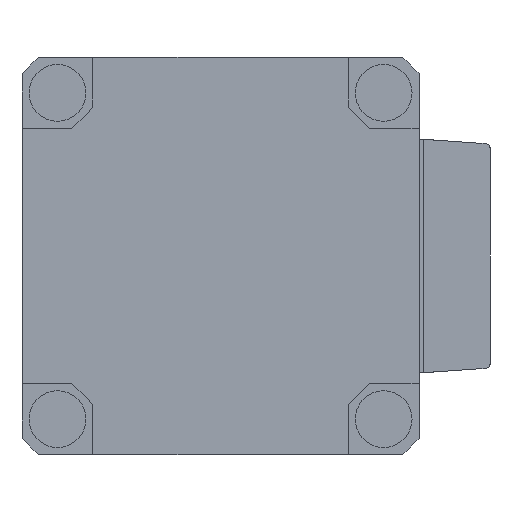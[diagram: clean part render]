
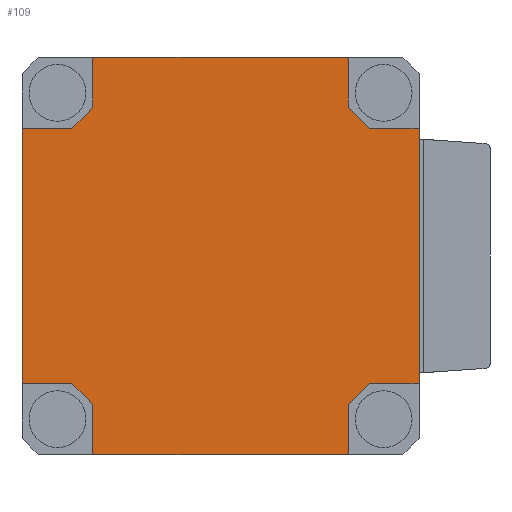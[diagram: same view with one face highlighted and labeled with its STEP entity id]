
A CAD part, left-side view. The second image highlights one B-rep face of the part: STEP entity #109.
In plain terms, the highlighted planar face has unit normal (-1, 0, 0).
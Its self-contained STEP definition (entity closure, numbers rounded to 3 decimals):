
#109 = ADVANCED_FACE( '', ( #302 ), #303, .F. );
#302 = FACE_OUTER_BOUND( '', #610, .T. );
#303 = PLANE( '', #611 );
#610 = EDGE_LOOP( '', ( #1045, #1046, #1047, #1048, #1049, #1050, #1051, #1052, #1053, #1054, #1055, #1056, #1057, #1058, #1059, #1060 ) );
#611 = AXIS2_PLACEMENT_3D( '', #1061, #1062, #1063 );
#1045 = ORIENTED_EDGE( '', *, *, #1925, .T. );
#1046 = ORIENTED_EDGE( '', *, *, #1923, .T. );
#1047 = ORIENTED_EDGE( '', *, *, #1902, .T. );
#1048 = ORIENTED_EDGE( '', *, *, #1930, .F. );
#1049 = ORIENTED_EDGE( '', *, *, #1931, .T. );
#1050 = ORIENTED_EDGE( '', *, *, #1927, .T. );
#1051 = ORIENTED_EDGE( '', *, *, #1932, .T. );
#1052 = ORIENTED_EDGE( '', *, *, #1933, .F. );
#1053 = ORIENTED_EDGE( '', *, *, #1934, .T. );
#1054 = ORIENTED_EDGE( '', *, *, #1935, .T. );
#1055 = ORIENTED_EDGE( '', *, *, #1936, .T. );
#1056 = ORIENTED_EDGE( '', *, *, #1937, .F. );
#1057 = ORIENTED_EDGE( '', *, *, #1938, .T. );
#1058 = ORIENTED_EDGE( '', *, *, #1939, .T. );
#1059 = ORIENTED_EDGE( '', *, *, #1940, .T. );
#1060 = ORIENTED_EDGE( '', *, *, #1941, .F. );
#1061 = CARTESIAN_POINT( '', ( -51.5, 0., 0. ) );
#1062 = DIRECTION( '', ( 1., 0., 0. ) );
#1063 = DIRECTION( '', ( 0., 0., -1. ) );
#1902 = EDGE_CURVE( '', #2264, #2265, #2266, .T. );
#1923 = EDGE_CURVE( '', #2305, #2264, #2306, .T. );
#1925 = EDGE_CURVE( '', #2308, #2305, #2309, .T. );
#1927 = EDGE_CURVE( '', #2311, #2312, #2313, .T. );
#1930 = EDGE_CURVE( '', #2316, #2265, #2317, .T. );
#1931 = EDGE_CURVE( '', #2316, #2311, #2318, .T. );
#1932 = EDGE_CURVE( '', #2312, #2319, #2320, .T. );
#1933 = EDGE_CURVE( '', #2321, #2319, #2322, .T. );
#1934 = EDGE_CURVE( '', #2321, #2323, #2324, .T. );
#1935 = EDGE_CURVE( '', #2323, #2325, #2326, .T. );
#1936 = EDGE_CURVE( '', #2325, #2327, #2328, .T. );
#1937 = EDGE_CURVE( '', #2329, #2327, #2330, .T. );
#1938 = EDGE_CURVE( '', #2329, #2331, #2332, .T. );
#1939 = EDGE_CURVE( '', #2331, #2333, #2334, .T. );
#1940 = EDGE_CURVE( '', #2333, #2335, #2336, .T. );
#1941 = EDGE_CURVE( '', #2308, #2335, #2337, .T. );
#2264 = VERTEX_POINT( '', #2812 );
#2265 = VERTEX_POINT( '', #2813 );
#2266 = LINE( '', #2814, #2815 );
#2305 = VERTEX_POINT( '', #2868 );
#2306 = CIRCLE( '', #2869, 19. );
#2308 = VERTEX_POINT( '', #2872 );
#2309 = LINE( '', #2873, #2874 );
#2311 = VERTEX_POINT( '', #2877 );
#2312 = VERTEX_POINT( '', #2878 );
#2313 = CIRCLE( '', #2879, 19. );
#2316 = VERTEX_POINT( '', #2884 );
#2317 = LINE( '', #2885, #2886 );
#2318 = LINE( '', #2887, #2888 );
#2319 = VERTEX_POINT( '', #2889 );
#2320 = LINE( '', #2890, #2891 );
#2321 = VERTEX_POINT( '', #2892 );
#2322 = LINE( '', #2893, #2894 );
#2323 = VERTEX_POINT( '', #2895 );
#2324 = LINE( '', #2896, #2897 );
#2325 = VERTEX_POINT( '', #2898 );
#2326 = CIRCLE( '', #2899, 19. );
#2327 = VERTEX_POINT( '', #2900 );
#2328 = LINE( '', #2901, #2902 );
#2329 = VERTEX_POINT( '', #2903 );
#2330 = LINE( '', #2904, #2905 );
#2331 = VERTEX_POINT( '', #2906 );
#2332 = LINE( '', #2907, #2908 );
#2333 = VERTEX_POINT( '', #2909 );
#2334 = CIRCLE( '', #2910, 19. );
#2335 = VERTEX_POINT( '', #2911 );
#2336 = LINE( '', #2912, #2913 );
#2337 = LINE( '', #2914, #2915 );
#2812 = CARTESIAN_POINT( '', ( -51.5, 9., -10.5 ) );
#2813 = CARTESIAN_POINT( '', ( -51.5, 9., -14. ) );
#2814 = CARTESIAN_POINT( '', ( -51.5, 9., -10.5 ) );
#2815 = VECTOR( '', #3545, 1000. );
#2868 = CARTESIAN_POINT( '', ( -51.5, 10.5, -9. ) );
#2869 = AXIS2_PLACEMENT_3D( '', #3578, #3579, #3580 );
#2872 = CARTESIAN_POINT( '', ( -51.5, 14., -9. ) );
#2873 = CARTESIAN_POINT( '', ( -51.5, 14., -9. ) );
#2874 = VECTOR( '', #3582, 1000. );
#2877 = CARTESIAN_POINT( '', ( -51.5, -9., -10.5 ) );
#2878 = CARTESIAN_POINT( '', ( -51.5, -10.5, -9. ) );
#2879 = AXIS2_PLACEMENT_3D( '', #3584, #3585, #3586 );
#2884 = CARTESIAN_POINT( '', ( -51.5, -9., -14. ) );
#2885 = CARTESIAN_POINT( '', ( -51.5, -12.845, -14. ) );
#2886 = VECTOR( '', #3589, 1000. );
#2887 = CARTESIAN_POINT( '', ( -51.5, -9., -14. ) );
#2888 = VECTOR( '', #3590, 1000. );
#2889 = CARTESIAN_POINT( '', ( -51.5, -14., -9. ) );
#2890 = CARTESIAN_POINT( '', ( -51.5, -10.5, -9. ) );
#2891 = VECTOR( '', #3591, 1000. );
#2892 = CARTESIAN_POINT( '', ( -51.5, -14., 9. ) );
#2893 = CARTESIAN_POINT( '', ( -51.5, -14., 12.845 ) );
#2894 = VECTOR( '', #3592, 1000. );
#2895 = CARTESIAN_POINT( '', ( -51.5, -10.5, 9. ) );
#2896 = CARTESIAN_POINT( '', ( -51.5, -14., 9. ) );
#2897 = VECTOR( '', #3593, 1000. );
#2898 = CARTESIAN_POINT( '', ( -51.5, -9., 10.5 ) );
#2899 = AXIS2_PLACEMENT_3D( '', #3594, #3595, #3596 );
#2900 = CARTESIAN_POINT( '', ( -51.5, -9., 14. ) );
#2901 = CARTESIAN_POINT( '', ( -51.5, -9., 10.5 ) );
#2902 = VECTOR( '', #3597, 1000. );
#2903 = CARTESIAN_POINT( '', ( -51.5, 9., 14. ) );
#2904 = CARTESIAN_POINT( '', ( -51.5, 12.845, 14. ) );
#2905 = VECTOR( '', #3598, 1000. );
#2906 = CARTESIAN_POINT( '', ( -51.5, 9., 10.5 ) );
#2907 = CARTESIAN_POINT( '', ( -51.5, 9., 14. ) );
#2908 = VECTOR( '', #3599, 1000. );
#2909 = CARTESIAN_POINT( '', ( -51.5, 10.5, 9. ) );
#2910 = AXIS2_PLACEMENT_3D( '', #3600, #3601, #3602 );
#2911 = CARTESIAN_POINT( '', ( -51.5, 14., 9. ) );
#2912 = CARTESIAN_POINT( '', ( -51.5, 10.5, 9. ) );
#2913 = VECTOR( '', #3603, 1000. );
#2914 = CARTESIAN_POINT( '', ( -51.5, 14., -12.845 ) );
#2915 = VECTOR( '', #3604, 1000. );
#3545 = DIRECTION( '', ( 0., 0., -1. ) );
#3578 = CARTESIAN_POINT( '', ( -51.5, 23.164, -23.164 ) );
#3579 = DIRECTION( '', ( 1., 0., 0. ) );
#3580 = DIRECTION( '', ( 0., 0., -1. ) );
#3582 = DIRECTION( '', ( 0., -1., 0. ) );
#3584 = CARTESIAN_POINT( '', ( -51.5, -23.164, -23.164 ) );
#3585 = DIRECTION( '', ( 1., 0., 0. ) );
#3586 = DIRECTION( '', ( 0., 0., -1. ) );
#3589 = DIRECTION( '', ( 0., 1., 0. ) );
#3590 = DIRECTION( '', ( 0., 0., 1. ) );
#3591 = DIRECTION( '', ( 0., -1., 0. ) );
#3592 = DIRECTION( '', ( 0., 0., -1. ) );
#3593 = DIRECTION( '', ( 0., 1., 0. ) );
#3594 = CARTESIAN_POINT( '', ( -51.5, -23.164, 23.164 ) );
#3595 = DIRECTION( '', ( 1., 0., 0. ) );
#3596 = DIRECTION( '', ( 0., 0., -1. ) );
#3597 = DIRECTION( '', ( 0., 0., 1. ) );
#3598 = DIRECTION( '', ( 0., -1., 0. ) );
#3599 = DIRECTION( '', ( 0., 0., -1. ) );
#3600 = CARTESIAN_POINT( '', ( -51.5, 23.164, 23.164 ) );
#3601 = DIRECTION( '', ( 1., 0., 0. ) );
#3602 = DIRECTION( '', ( 0., 0., -1. ) );
#3603 = DIRECTION( '', ( 0., 1., 0. ) );
#3604 = DIRECTION( '', ( 0., 0., 1. ) );
